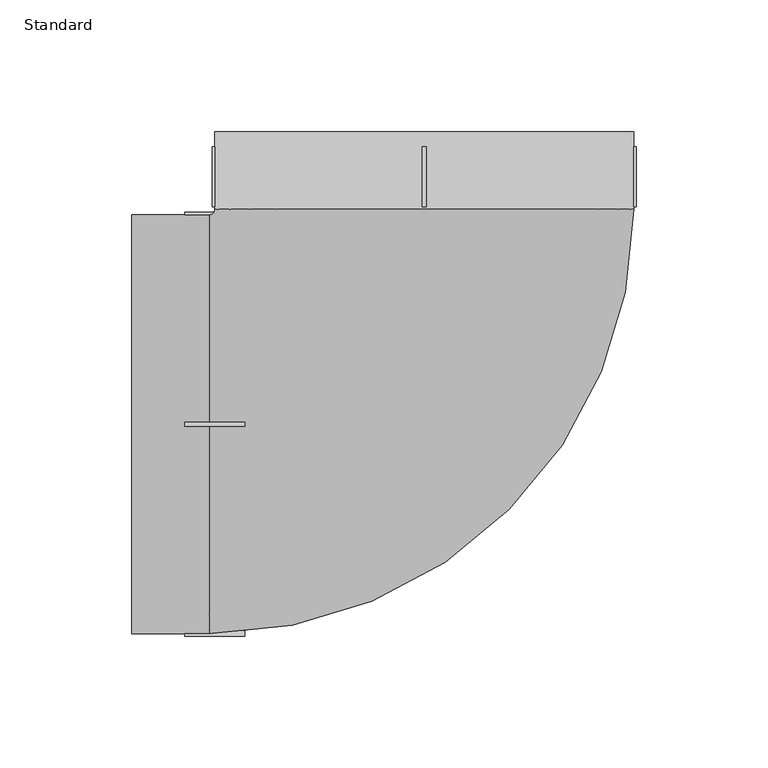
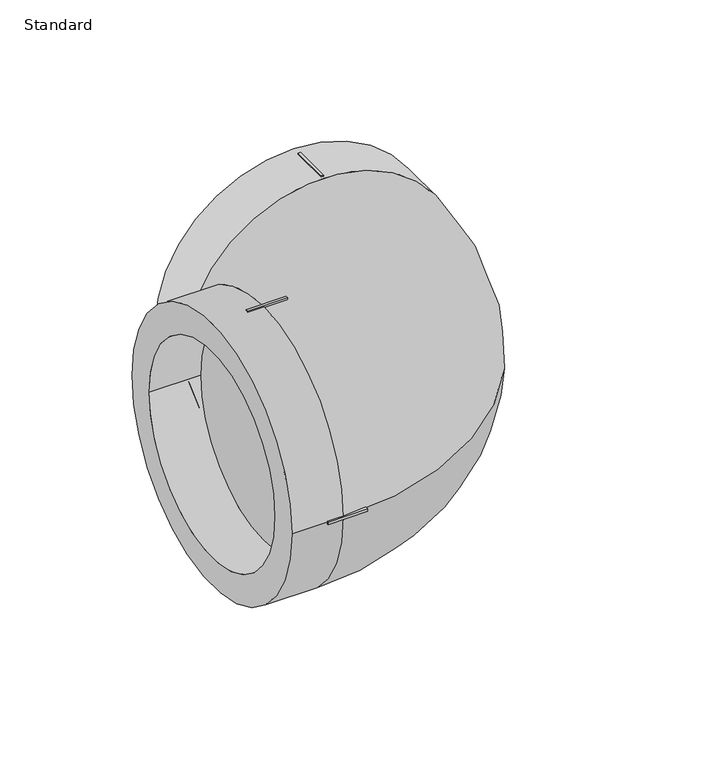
"""IFC4 building model written with IfcOpenShell, lengths in millimetres: pipe fitting geometry, EGB_VASEN_ PPR_Codo 90 WXR200_Codo 45 WXR220  : Standard."""

from ifc_helpers import new_model, si_unit, point, frame, origin, place, context, project, spatial, polyline, circle_curve, ellipse_curve, trimmed, outline, extrude, source, transform, mapped, element, save
from ifc_brep_helpers import plane_surface, cylinder_surface, revolved_surface, advanced_brep


def standard_c7dc376b(model_context):
    return source(origin(), model_context, "Body", "SolidModel", [
        advanced_brep(
        [(-111.0, -79.5, 0.0), (-111.0, 79.5, 0.0), (-111.0, -62.5, 0.0), (-111.0, 62.5, 0.0), (-81.5, -79.5, 0.0), (-81.5, 79.5, 0.0), (-81.5, -62.5, 0.0), (-81.5, 62.5, 0.0), (62.5, 81.5, 0.0), (-62.5, 81.5, 0.0), (-79.5, 81.5, 0.0), (79.5, 81.5, 0.0), (0.0, 81.5, 79.5), (0.0, 81.5, -79.5), (79.5, 111.0, 0.0), (-79.5, 111.0, 0.0), (62.5, 111.0, 0.0), (-62.5, 111.0, 0.0)],
        [
            (0, 1, circle_curve(frame((-111.0, 0.0, 0.0), z_axis=(-1.0, 0.0, 0.0), x_axis=(0.0, 1.0, 0.0)), 79.5)),
            (1, 0, circle_curve(frame((-111.0, 0.0, 0.0), z_axis=(-1.0, 0.0, 0.0), x_axis=(0.0, 1.0, 0.0)), 79.5)),
            (2, 3, circle_curve(frame((-111.0, 0.0, 0.0), z_axis=(1.0, 0.0, 0.0), x_axis=(0.0, 1.0, 0.0)), 62.5)),
            (3, 2, circle_curve(frame((-111.0, 0.0, 0.0), z_axis=(1.0, 0.0, 0.0), x_axis=(0.0, 1.0, 0.0)), 62.5)),
            (0, 4),
            (4, 5, circle_curve(frame((-81.5, 0.0, 0.0), z_axis=(-1.0, 0.0, 0.0), x_axis=(0.0, 1.0, 0.0)), 79.5)),
            (5, 1),
            (5, 4, circle_curve(frame((-81.5, 0.0, 0.0), z_axis=(-1.0, 0.0, 0.0), x_axis=(0.0, 1.0, 0.0)), 79.5)),
            (2, 6),
            (6, 7, circle_curve(frame((-81.5, 0.0, 0.0), z_axis=(1.0, 0.0, 0.0), x_axis=(0.0, 1.0, 0.0)), 62.5)),
            (7, 3),
            (7, 6, circle_curve(frame((-81.5, 0.0, 0.0), z_axis=(1.0, 0.0, 0.0), x_axis=(0.0, 1.0, 0.0)), 62.5)),
            (8, 9, circle_curve(frame((0.0, 81.5, 0.0), z_axis=(0.0, 1.0, 0.0), x_axis=(-1.0, 0.0, 0.0)), 62.5)),
            (9, 8, circle_curve(frame((0.0, 81.5, 0.0), z_axis=(0.0, 1.0, 0.0), x_axis=(-1.0, 0.0, 0.0)), 62.5)),
            (10, 5, circle_curve(frame((-81.5, 81.5, 0.0), z_axis=(0.0, 0.0, -1.0), x_axis=(0.0, -1.0, 0.0)), 2.0)),
            (4, 11, circle_curve(frame((-81.5, 81.5, 0.0), z_axis=(0.0, 0.0, 1.0), x_axis=(0.0, -1.0, 0.0)), 161.0)),
            (11, 12, circle_curve(frame((0.0, 81.5, 0.0), z_axis=(0.0, -1.0, 0.0), x_axis=(-1.0, 0.0, 0.0)), 79.5)),
            (12, 10, circle_curve(frame((0.0, 81.5, 0.0), z_axis=(0.0, -1.0, 0.0), x_axis=(-1.0, 0.0, 0.0)), 79.5)),
            (10, 13, circle_curve(frame((0.0, 81.5, 0.0), z_axis=(0.0, -1.0, 0.0), x_axis=(-1.0, 0.0, 0.0)), 79.5)),
            (13, 11, circle_curve(frame((0.0, 81.5, 0.0), z_axis=(0.0, -1.0, 0.0), x_axis=(-1.0, 0.0, 0.0)), 79.5)),
            (14, 15, circle_curve(frame((0.0, 111.0, 0.0), z_axis=(0.0, 1.0, 0.0), x_axis=(-1.0, 0.0, 0.0)), 79.5)),
            (15, 14, circle_curve(frame((0.0, 111.0, 0.0), z_axis=(0.0, 1.0, 0.0), x_axis=(-1.0, 0.0, 0.0)), 79.5)),
            (16, 17, circle_curve(frame((0.0, 111.0, 0.0), z_axis=(0.0, -1.0, 0.0), x_axis=(-1.0, 0.0, 0.0)), 62.5)),
            (17, 16, circle_curve(frame((0.0, 111.0, 0.0), z_axis=(0.0, -1.0, 0.0), x_axis=(-1.0, 0.0, 0.0)), 62.5)),
            (15, 10),
            (11, 14),
            (17, 9),
            (8, 16),
        ],
        [
            plane_surface(frame((-111.0, 0.0, 0.0), z_axis=(-1.0, 0.0, 0.0), x_axis=(0.0, 0.0, 1.0))),
            cylinder_surface(frame((-111.0, 0.0, 0.0), z_axis=(-1.0, 0.0, 0.0), x_axis=(0.0, 1.0, 0.0)), 79.5),
            revolved_surface(polyline([(-81.5, 62.5, 0.0), (-111.0, 62.5, 0.0)]), (-111.0, 0.0, 0.0), (1.0, 0.0, 0.0)),
            plane_surface(frame((-81.5, 0.0, 0.0), z_axis=(-1.0, 0.0, 0.0), x_axis=(0.0, 0.0, 1.0))),
            plane_surface(frame((0.0, 81.5, 0.0), z_axis=(0.0, 1.0, 0.0), x_axis=(0.0, 0.0, 1.0))),
            revolved_surface(trimmed(ellipse_curve(frame((-81.5, 0.0, 0.0), z_axis=(-1.0, 0.0, 0.0), x_axis=(0.0, 1.0, 0.0)), 79.5, 79.5), [point((-81.5, -79.5, 0.0))], [point((-81.5, 79.5, 0.0))], True, "CARTESIAN"), (-81.5, 81.5, 0.0), (0.0, 0.0, 1.0)),
            revolved_surface(trimmed(ellipse_curve(frame((-81.5, 0.0, 0.0), z_axis=(-1.0, 0.0, 0.0), x_axis=(0.0, 1.0, 0.0)), 79.5, 79.5), [point((-81.5, 79.5, 0.0))], [point((-81.5, -79.5, 0.0))], True, "CARTESIAN"), (-81.5, 81.5, 0.0), (0.0, 0.0, 1.0)),
            plane_surface(frame((0.0, 111.0, 0.0), z_axis=(0.0, 1.0, 0.0), x_axis=(0.0, 0.0, 1.0))),
            cylinder_surface(frame((0.0, 81.5, 0.0), z_axis=(0.0, -1.0, 0.0), x_axis=(-1.0, 0.0, 0.0)), 79.5),
            revolved_surface(polyline([(-62.5, 111.0, 0.0), (-62.5, 81.5, 0.0)]), (0.0, 81.5, 0.0), (0.0, 1.0, 0.0)),
        ],
        [
            (0, [[1, 2], [3, 4]]),
            (1, [[-1, 5, 6, 7]]),
            (1, [[-2, -7, 8, -5]]),
            (2, [[-3, 9, 10, 11]]),
            (2, [[-4, -11, 12, -9]]),
            (3, [[-10, -12]]),
            (4, [[13, 14]]),
            (5, [[15, -6, 16, 17, 18]]),
            (6, [[-15, 19, 20, -16, -8]]),
            (7, [[21, 22], [23, 24]]),
            (8, [[-22, 25, -18, -17, 26]]),
            (8, [[-21, -26, -20, -19, -25]]),
            (9, [[-24, 27, -13, 28]]),
            (9, [[-23, -28, -14, -27]]),
        ],
    ),
        extrude(outline(polyline([(0.75, 82.5), (-0.75, 82.5), (-0.75, 105.3), (0.75, 105.3), (0.75, 82.5)])), frame((0.0, 0.0, 78.5), z_axis=(0.0, 0.0, 1.0), x_axis=(1.0, 0.0, 0.0)), (0.0, 0.0, 1.0), 2.0),
        extrude(outline(polyline([(-78.5, 82.5), (-80.5, 82.5), (-80.5, 105.3), (-78.5, 105.3), (-78.5, 82.5)])), frame((0.0, 0.0, -0.75), z_axis=(0.0, 0.0, 1.0), x_axis=(1.0, 0.0, 0.0)), (0.0, 0.0, 1.0), 1.5),
        extrude(outline(polyline([(80.5, 82.5), (78.5, 82.5), (78.5, 105.3), (80.5, 105.3), (80.5, 82.5)])), frame((0.0, 0.0, -0.75), z_axis=(0.0, 0.0, 1.0), x_axis=(1.0, 0.0, 0.0)), (0.0, 0.0, 1.0), 1.5),
        extrude(outline(polyline([(0.75, 82.5), (-0.75, 82.5), (-0.75, 105.3), (0.75, 105.3), (0.75, 82.5)])), frame((0.0, 0.0, -80.5), z_axis=(0.0, 0.0, 1.0), x_axis=(1.0, 0.0, 0.0)), (0.0, 0.0, 1.0), 2.0),
        extrude(outline(polyline([(-68.1, 0.75), (-68.1, -0.75), (-90.9, -0.75), (-90.9, 0.75), (-68.1, 0.75)])), frame((0.0, 0.0, 78.5), z_axis=(0.0, 0.0, 1.0), x_axis=(1.0, 0.0, 0.0)), (0.0, 0.0, 1.0), 2.0),
        extrude(outline(polyline([(-68.1, 0.75), (-68.1, -0.75), (-90.9, -0.75), (-90.9, 0.75), (-68.1, 0.75)])), frame((0.0, 0.0, -80.5), z_axis=(0.0, 0.0, 1.0), x_axis=(1.0, 0.0, 0.0)), (0.0, 0.0, 1.0), 2.0),
        extrude(outline(polyline([(-68.1, 80.5), (-68.1, 78.5), (-90.9, 78.5), (-90.9, 80.5), (-68.1, 80.5)])), frame((0.0, 0.0, -0.75), z_axis=(0.0, 0.0, 1.0), x_axis=(1.0, 0.0, 0.0)), (0.0, 0.0, 1.0), 1.5),
        extrude(outline(polyline([(-68.1, -78.5), (-68.1, -80.5), (-90.9, -80.5), (-90.9, -78.5), (-68.1, -78.5)])), frame((0.0, 0.0, -0.75), z_axis=(0.0, 0.0, 1.0), x_axis=(1.0, 0.0, 0.0)), (0.0, 0.0, 1.0), 1.5),
    ])


if __name__ == "__main__":
    model = new_model("IFC4")
    model_context = context("Model", 3, world=origin())
    ifc_project = project(units=[si_unit("LENGTHUNIT", "METRE", prefix="MILLI")], contexts=[model_context])
    site = spatial("IfcSite", under=ifc_project)
    building = spatial("IfcBuilding", under=site)
    placement = place(None, origin())
    standard_shape = standard_c7dc376b(model_context)
    element("IfcPipeFitting", 1, ObjectType="EGB_VASEN_ PPR_Codo 90 WXR200_Codo 45 WXR220  : Standard", at=placement, inside=building, context=model_context, shape_type="MappedRepresentation", body=[
        mapped(standard_shape, transform((0.0, 0.0, 0.0), x_axis=(1.0, 0.0, 0.0), y_axis=(0.0, 1.0, 0.0), z_axis=(0.0, 0.0, 1.0))),
    ])
    save(model, "model.ifc")
